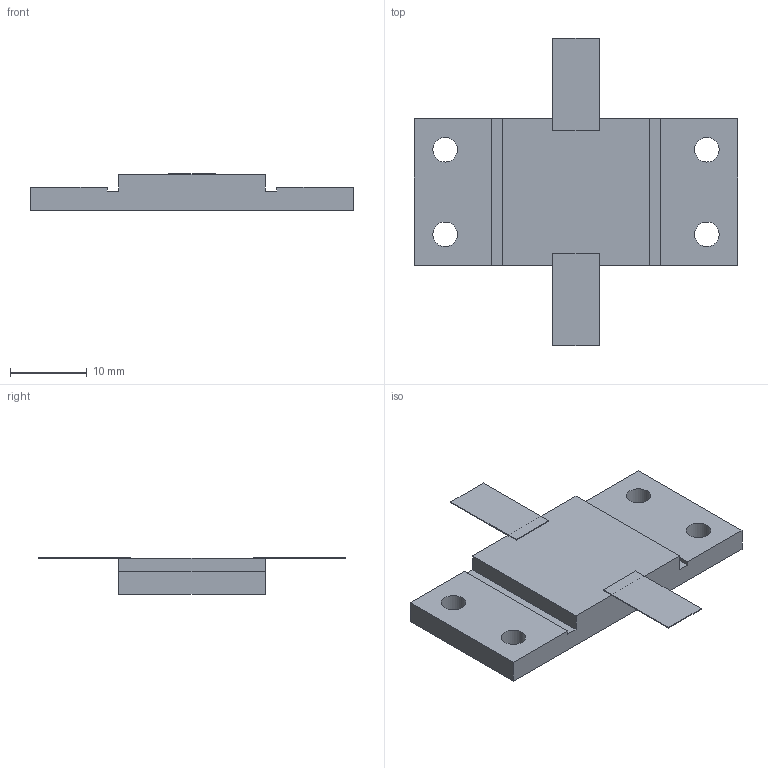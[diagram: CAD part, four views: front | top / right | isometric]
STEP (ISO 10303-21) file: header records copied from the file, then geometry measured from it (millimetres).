
FILE_DESCRIPTION(('STEP AP203'), '1');
FILE_NAME('Ð1-87-630', '', ('UNSPECIFIED'), ('UNSPECIFIED'), 'ASCON STEP Converter 1.6', 'ASCON Math Kernel', '');
FILE_SCHEMA(('CONFIG_CONTROL_DESIGN'));
Length unit declared in the file: millimetre
Bounding box: 42 x 40 x 4.8 mm (x, y, z)
Volume: 2897.1 mm3; surface area: 2687 mm2
Topology: 1 solids, 2 shells, 49 faces, 131 edges, 86 vertices
Faces by surface type: plane 41, cylinder 8
Full cylindrical faces by diameter (mm): 3.2 x4
Entity records: 1943 total; most frequent: CARTESIAN_POINT 263, ORIENTED_EDGE 254, DIRECTION 243, EDGE_CURVE 127, LINE 111, VECTOR 111, VERTEX_POINT 86, AXIS2_PLACEMENT_3D 66
